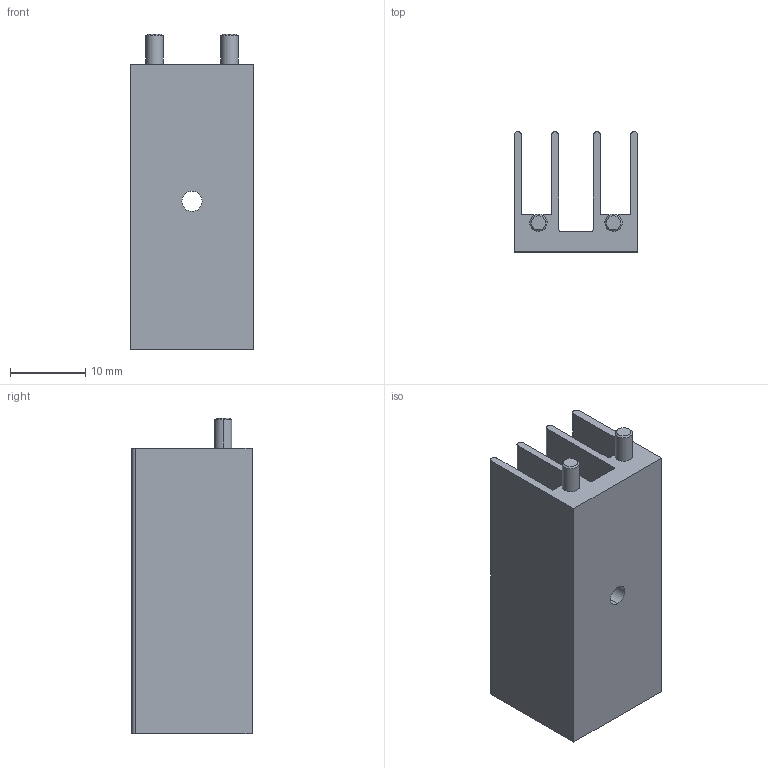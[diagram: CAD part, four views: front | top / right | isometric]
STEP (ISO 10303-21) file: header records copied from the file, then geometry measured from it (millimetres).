
FILE_DESCRIPTION (( 'STEP AP214' ), '1' );
FILE_NAME ('CUI_DEVICES_HSE-B381-04H.step', '2019-10-25T17:12:28', ( '' ), ( '' ), 'SwSTEP 2.0', 'SolidWorks 2019', '' );
FILE_SCHEMA (( 'AUTOMOTIVE_DESIGN' ));
Length unit declared in the file: inch
Products named in the file (1): CUI_DEVICES_HSE-B381-04H
Bounding box: 16.5 x 16 x 42.1 mm (x, y, z)
Volume: 4165.5 mm3; surface area: 5684.2 mm2
Topology: 1 solids, 1 shells, 58 faces, 160 edges, 104 vertices
Faces by surface type: cylinder 30, plane 24, cone 4
Entity records: 2068 total; most frequent: DIRECTION 346, CARTESIAN_POINT 323, ORIENTED_EDGE 320, EDGE_CURVE 160, AXIS2_PLACEMENT_3D 127, VERTEX_POINT 104, LINE 92, VECTOR 92
